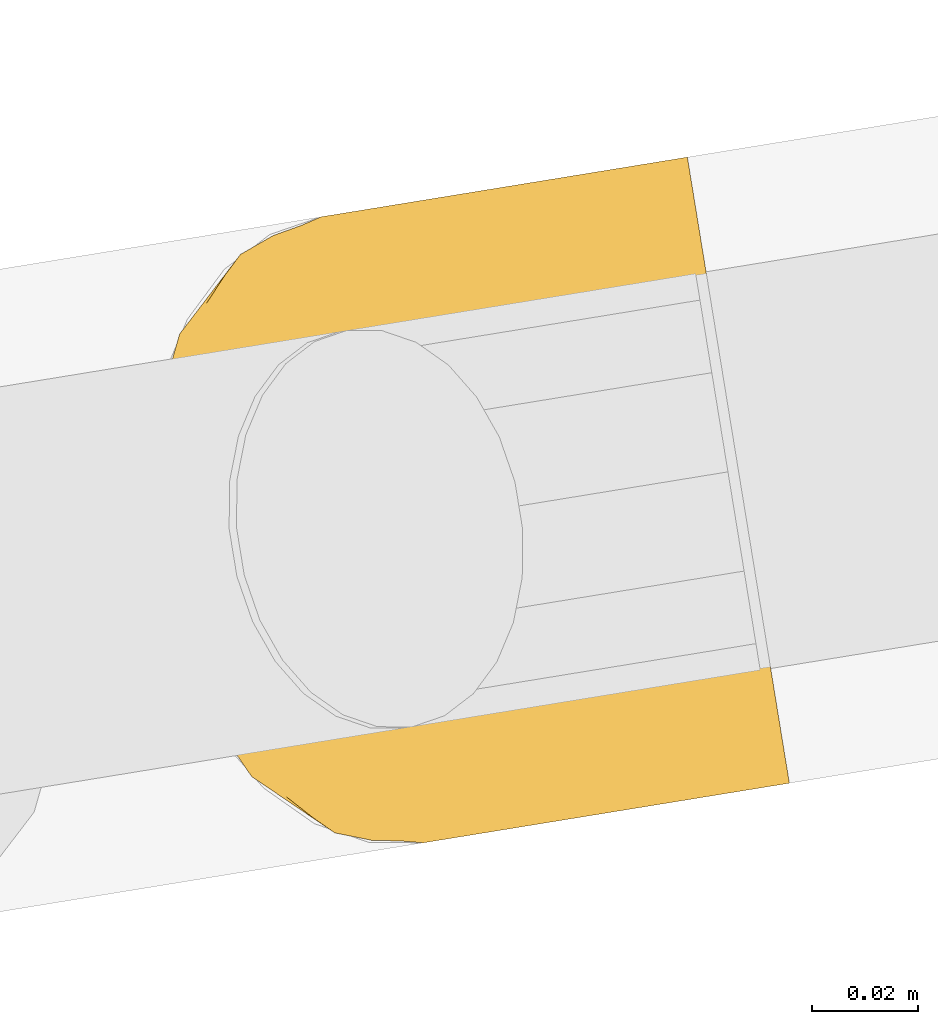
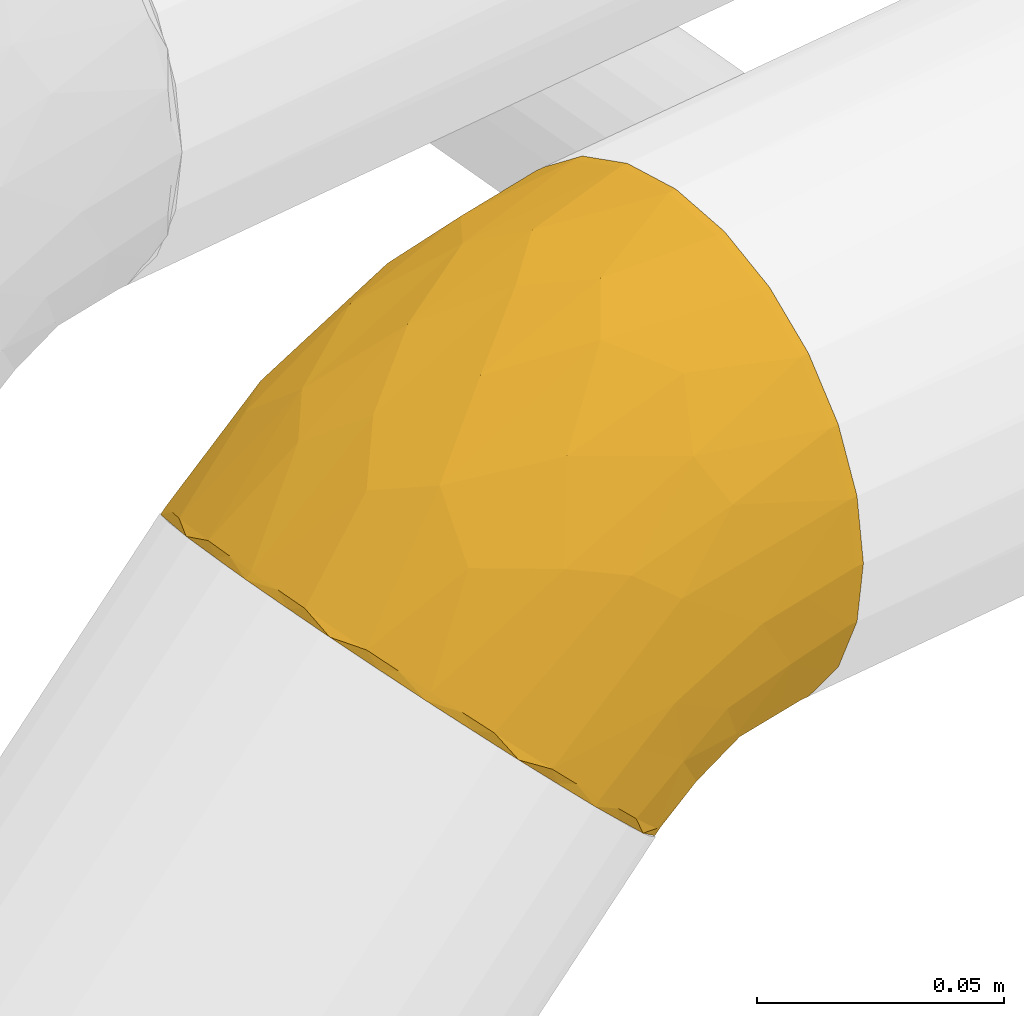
# One storey, part 9 of 56: 1 covering.
"""IFC2X3 building model written with IfcOpenShell, lengths in millimetres."""

from ifc_helpers import new_model, entity, si_unit, converted_unit, derived_unit, direction, frame, origin, origin_with_axes, place, context, subcontext, project, spatial, faceted_brep, material, type_object, element, save


model = new_model("IFC2X3")

# Units and contexts
model_context = context("Model", 3, precision=0.01, world=origin(), true_north=direction((6.12323399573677e-17, 1.0)))
plan_context = context("Plan", 3, precision=1e-05, world=origin_with_axes())
body_context = subcontext(model_context, "Body", "Model", "MODEL_VIEW")
ifc_project = project(units=[converted_unit("PLANEANGLEUNIT", "DEGREE", entity("IfcPositiveLengthMeasure", 0.0174532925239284), si_unit("PLANEANGLEUNIT", "RADIAN"), dimensions=[0, 0, 0, 0, 0, 0, 0]), si_unit("AREAUNIT", "SQUARE_METRE"), si_unit("LENGTHUNIT", "METRE", prefix="MILLI"), si_unit("MASSUNIT", "GRAM", prefix="KILO"), si_unit("POWERUNIT", "WATT"), si_unit("PRESSUREUNIT", "PASCAL", prefix="KILO"), si_unit("FORCEUNIT", "NEWTON", prefix="KILO"), si_unit("ELECTRICVOLTAGEUNIT", "VOLT"), si_unit("ELECTRICCURRENTUNIT", "AMPERE"), si_unit("THERMODYNAMICTEMPERATUREUNIT", "DEGREE_CELSIUS"), si_unit("TIMEUNIT", "SECOND"), si_unit("VOLUMEUNIT", "CUBIC_METRE"), derived_unit("LINEARVELOCITYUNIT", [(si_unit("LENGTHUNIT", "METRE"), 1), (si_unit("TIMEUNIT", "SECOND"), -1)]), derived_unit("VOLUMETRICFLOWRATEUNIT", [(si_unit("VOLUMEUNIT", "CUBIC_METRE"), 1), (si_unit("TIMEUNIT", "SECOND"), -1)]), derived_unit("THERMALTRANSMITTANCEUNIT", [(si_unit("POWERUNIT", "WATT"), 1), (si_unit("THERMODYNAMICTEMPERATUREUNIT", "KELVIN"), -1), (si_unit("AREAUNIT", "SQUARE_METRE"), -1)]), derived_unit("SOUNDPRESSUREUNIT", [(si_unit("PRESSUREUNIT", "PASCAL"), 1)])], contexts=[model_context, plan_context])

# Site, building, storey
site_placement = place(None, frame((-3.09682673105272e-06, 1.93776733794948e-05, 0.0), z_axis=(0.0, 0.0, 1.0), x_axis=(-0.160806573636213, 0.986985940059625, 0.0)))
site = spatial("IfcSite", under=ifc_project, at=site_placement, Name="Default", CompositionType="ELEMENT")
building_placement = place(site_placement, frame((0.0, 0.0, 0.0), z_axis=(0.0, 0.0, 1.0), x_axis=(1.0, -2.77555756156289e-17, 0.0)))
building = spatial("IfcBuilding", under=site, at=building_placement, Name="Bygning (endres i Project Information)", CompositionType="ELEMENT")
storey_placement = place(building_placement, frame((0.0, 0.0, 51360.0000000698), z_axis=(0.0, 0.0, 1.0), x_axis=(1.0, -2.77555756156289e-17, 0.0)))
storey = spatial("IfcBuildingStorey", under=building, at=storey_placement, Name="H01-Nivå D+0,36", CompositionType="ELEMENT", Elevation=51360.0000000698)

# Covering
ifc_material = material(Name="3700.001 Retur")
covering_type = type_object("IfcCoveringType", Name="Pipe Insulation:GLAVA avløpsisol. slange økende 19mm (15,5-25,0)", PredefinedType="INSULATION")
covering_placement = place(storey_placement, frame((1011626.7223707, -394916.95891631, 3661.64600916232), z_axis=(0.0, 0.0, 1.0), x_axis=(1.0, -2.77555756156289e-17, 0.0)))
element("IfcCovering", 1, at=covering_placement, inside=storey, type_object=covering_type, material=ifc_material, Name="Pipe Insulation:GLAVA avløpsisol. slange økende 19mm (15,5-25,0)", ObjectType="Pipe Insulation:GLAVA avløpsisol. slange økende 19mm (15,5-25,0)", PredefinedType="INSULATION", context=body_context, shape_type="Brep", body=[
    faceted_brep([(38.6651321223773, 31.0062513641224, -129.967447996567), (28.9243210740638, 35.6085278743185, -125.365171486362), (19.1835100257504, 40.2108043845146, -120.762894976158), (12.6749081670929, 47.0985979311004, -113.875101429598), (6.16630630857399, 53.986391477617, -106.987307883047), (3.88078927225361, 62.1110979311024, -98.8626014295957), (1.59527223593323, 70.2358043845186, -90.7378949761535), (3.88078927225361, 78.3605108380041, -82.6131885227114), (6.16630630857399, 86.4852172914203, -74.4884820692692), (12.6749081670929, 93.3730108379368, -67.6006885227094), (19.1835100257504, 100.260804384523, -60.7128949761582), (28.9243210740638, 104.863080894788, -56.1106184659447), (38.6651321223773, 109.465357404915, -51.5083419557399), (50.1552021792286, 111.081461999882, -49.8922373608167), (61.6452722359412, 112.697566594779, -48.276132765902), (73.1353422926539, 111.081461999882, -49.8922373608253), (84.6254123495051, 109.465357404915, -51.5083419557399), (94.3662233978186, 104.863080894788, -56.1106184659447), (104.107034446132, 100.260804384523, -60.7128949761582), (110.61563630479, 93.3730108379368, -67.6006885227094), (117.124238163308, 86.4852172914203, -74.4884820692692), (119.409755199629, 78.3605108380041, -82.6131885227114), (121.695272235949, 70.2358043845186, -90.7378949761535), (119.409755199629, 62.1110979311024, -98.8626014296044), (117.124238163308, 53.986391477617, -106.987307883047), (110.61563630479, 47.0985979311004, -113.875101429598), (104.107034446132, 40.2108043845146, -120.762894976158), (94.3662233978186, 35.6085278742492, -125.365171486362), (84.6254123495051, 31.0062513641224, -129.967447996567), (73.1353422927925, 29.3901467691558, -131.58355259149), (61.6452722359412, 27.7740421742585, -133.199657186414), (50.1552021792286, 29.3901467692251, -131.58355259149), (84.4288140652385, 0.0, -6.64093655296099), (77.1873558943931, 0.0, -3.64142636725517), (70.0046048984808, 0.0, -2.6957992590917), (61.6452722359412, 0.0, -1.5952722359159), (53.8742304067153, 0.0, -2.61834930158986), (46.1031885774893, 0.0, -3.64142636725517), (38.861730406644, 0.0, -6.64093655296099), (31.6202722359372, 0.0, -9.64044673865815), (25.4018911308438, 0.0, -14.4119783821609), (19.1835100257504, 0.0, -19.1835100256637), (14.4119783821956, 0.0, -25.4018911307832), (9.64044673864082, 0.0, -31.6202722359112), (6.64093655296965, 0.0, -38.8617304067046), (3.64142636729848, 0.0, -46.1031885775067), (2.69579925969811, 0.0, -53.2859395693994), (1.59527223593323, 0.0, -61.6452722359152), (2.61834930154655, 0.0, -69.4163140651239), (3.64142636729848, 0.0, -77.1873558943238), (6.64093655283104, 0.0, -84.4288140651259), (9.64044673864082, 0.0, -91.6702722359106), (14.4119783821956, 0.0, -97.8886533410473), (19.1835100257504, 0.0, -104.107034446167), (25.4018911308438, 0.0, -108.878566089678), (31.6202722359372, 0.0, -113.650097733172), (38.861730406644, 0.0, -116.649607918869), (46.1031885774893, 0.0, -119.649118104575), (53.2859395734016, 0.0, -120.594745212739), (61.6452722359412, 0.0, -121.695272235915), (69.4163140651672, 0.0, -120.672195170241), (77.1873558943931, 0.0, -119.649118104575), (84.4288140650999, 0.0, -116.649607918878), (91.6702722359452, 0.0, -113.650097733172), (97.8886533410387, 0.0, -108.87856608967), (104.107034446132, 0.0, -104.107034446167), (108.878566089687, 0.0, -97.8886533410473), (113.650097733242, 0.0, -91.6702722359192), (116.649607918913, 0.0, -84.4288140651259), (119.649118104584, 0.0, -77.1873558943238), (120.594745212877, 0.0, -70.0046048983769), (121.695272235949, 0.0, -61.6452722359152), (120.672195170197, 0.0, -53.8742304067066), (119.649118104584, 0.0, -46.1031885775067), (116.649607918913, 0.0, -38.8617304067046), (113.650097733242, 0.0, -31.6202722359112), (108.878566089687, 0.0, -25.4018911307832), (104.107034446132, 0.0, -19.1835100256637), (97.8886533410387, 0.0, -14.4119783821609), (91.6702722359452, 0.0, -9.64044673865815), (46.1031885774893, 2.0, -3.64142636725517), (61.6452722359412, 2.0, -1.5952722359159), (53.2859395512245, 2.0, -2.69579926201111), (31.6202722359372, 2.0, -9.64044673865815), (38.861730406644, 2.0, -6.64093655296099), (25.4018911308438, 2.0, -14.4119783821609), (19.1835100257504, 2.0, -19.1835100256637), (9.64044673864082, 2.0, -31.6202722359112), (14.4119783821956, 2.0, -25.4018911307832), (3.64142636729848, 2.0, -46.1031885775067), (6.64093655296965, 2.0, -38.8617304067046), (2.61834930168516, 2.0, -53.8742304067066), (1.59527223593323, 2.0, -61.6452722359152), (3.64142636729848, 2.0, -77.1873558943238), (2.69579925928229, 2.0, -70.004604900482), (9.64044673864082, 2.0, -91.6702722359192), (6.64093655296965, 2.0, -84.4288140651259), (14.4119783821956, 2.0, -97.8886533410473), (19.1835100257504, 2.0, -104.107034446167), (31.6202722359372, 2.0, -113.650097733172), (25.4018911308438, 2.0, -108.87856608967), (46.1031885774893, 2.0, -119.649118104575), (38.861730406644, 2.0, -116.649607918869), (53.8742304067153, 2.0, -120.672195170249), (61.6452722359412, 2.0, -121.695272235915), (77.1873558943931, 2.0, -119.649118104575), (70.0046048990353, 2.0, -120.594745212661), (91.6702722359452, 2.0, -113.650097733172), (84.4288140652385, 2.0, -116.649607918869), (97.8886533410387, 2.0, -108.878566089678), (104.107034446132, 2.0, -104.107034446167), (113.650097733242, 2.0, -91.6702722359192), (108.878566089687, 2.0, -97.8886533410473), (119.649118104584, 2.0, -77.1873558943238), (116.649607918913, 2.0, -84.4288140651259), (120.672195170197, 2.0, -69.4163140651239), (121.695272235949, 2.0, -61.6452722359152), (119.649118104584, 2.0, -46.1031885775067), (120.594745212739, 2.0, -53.2859395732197), (113.650097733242, 2.0, -31.6202722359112), (116.649607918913, 2.0, -38.8617304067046), (108.878566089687, 2.0, -25.4018911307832), (104.107034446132, 2.0, -19.1835100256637), (91.6702722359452, 2.0, -9.64044673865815), (97.8886533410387, 2.0, -14.4119783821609), (77.1873558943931, 2.0, -3.64142636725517), (84.4288140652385, 2.0, -6.64093655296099), (69.4163140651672, 2.0, -2.61834930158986), (50.664647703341, 28.7452778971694, -4.95512982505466), (39.5950181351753, 37.8330606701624, -10.1225387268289), (61.6452722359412, 42.0004834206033, -6.86143578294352), (25.9108698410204, 27.1682922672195, -15.6210548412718), (26.9386521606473, 56.9168391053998, -23.5642877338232), (25.9108693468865, 83.5689547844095, -38.9829740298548), (31.6202722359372, 105.594555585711, -52.5507166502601), (25.4018911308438, 102.220573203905, -55.9246990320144), (19.1835100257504, 98.8465908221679, -59.2986814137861), (61.6452722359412, 79.2750000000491, -22.3010460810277), (50.6646483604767, 89.9958060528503, -30.3259287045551), (49.9807930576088, 60.7060146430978, -14.4164067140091), (1.59527223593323, 49.2500000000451, -74.3058715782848), (4.46183562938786, 45.1788828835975, -51.9022263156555), (3.64142636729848, 79.8115035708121, -78.3337686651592), (1.59527223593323, 26.4583997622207, -64.8652816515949), (1.59527223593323, 14.8614582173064, -63.3385153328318), (15.0655051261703, 33.4987318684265, -27.5478277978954), (8.00076731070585, 29.0199005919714, -37.7016675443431), (9.04079400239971, 54.6428505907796, -44.4694710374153), (9.64044673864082, 90.0524719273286, -68.09280030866), (6.64093655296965, 84.9319877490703, -73.2132844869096), (46.1031885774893, 109.836503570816, -48.3087686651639), (39.5950159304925, 79.9158587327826, -27.5538042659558), (15.2098345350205, 67.1408169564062, -40.676799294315), (14.4119783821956, 94.4495313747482, -63.695740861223), (61.6452722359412, 111.283353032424, -46.8619192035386), (53.8742304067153, 110.559928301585, -47.5853439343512), (1.59527223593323, 58.5298619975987, -81.4265601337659), (2.61834930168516, 74.316547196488, -83.8287250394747), (1.59527223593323, 68.8215908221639, -89.3236814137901), (1.59527223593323, 37.8541998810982, -69.5855766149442), (38.861730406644, 107.715529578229, -50.4297426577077), (3.54813655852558, 34.0030545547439, -83.5784971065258), (4.16459638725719, 16.8678863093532, -80.4693861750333), (11.7283730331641, 13.4077838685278, -96.1005551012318), (13.156433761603, 34.2988058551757, -106.68011113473), (22.1682347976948, 15.6080161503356, -108.812613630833), (9.27971318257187, 26.9160024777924, -95.9927100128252), (4.16459674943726, 44.9977451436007, -92.121155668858), (35.8329738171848, 17.4147715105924, -118.930716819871), (61.6452722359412, 15.183444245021, -124.317622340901), (22.6361433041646, 27.5353631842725, -114.505458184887), (3.64142636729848, 57.8316780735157, -100.313594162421), (6.64093655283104, 52.711193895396, -105.434078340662), (9.64044673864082, 47.5907097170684, -110.55456251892), (31.6202722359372, 32.0486260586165, -126.09664617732), (48.4139431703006, 18.3851066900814, -124.173520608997), (61.6452722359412, 26.3598286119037, -131.785443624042), (38.861730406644, 29.9276520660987, -128.217620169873), (46.1031885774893, 27.8066780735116, -130.338594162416), (53.8742304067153, 27.0832533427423, -131.062018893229), (19.1835100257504, 38.7965908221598, -119.348681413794), (25.4018911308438, 35.4226084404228, -122.722663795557), (14.4119783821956, 43.1936502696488, -114.951621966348), (2.61834930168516, 63.3266344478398, -94.8186377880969), (100.654400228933, 13.3875603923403, -108.645248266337), (87.4575706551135, 17.4147715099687, -118.930716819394), (101.122308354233, 25.8469172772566, -113.053705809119), (91.6702722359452, 32.0486260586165, -126.09664617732), (97.8886533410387, 35.4226084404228, -122.722663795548), (104.107034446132, 38.7965908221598, -119.348681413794), (74.8766016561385, 13.0214217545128, -121.951809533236), (119.74240796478, 30.682877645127, -82.2032347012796), (121.695272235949, 26.4583997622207, -64.8652816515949), (119.125948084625, 16.8678863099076, -80.469386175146), (110.134108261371, 14.1384379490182, -98.3294184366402), (121.695272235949, 14.8614582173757, -63.3385153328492), (114.01083159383, 26.916004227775, -95.9927101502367), (121.695272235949, 58.5298619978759, -81.4265601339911), (119.649118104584, 57.8316780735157, -100.313594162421), (120.672195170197, 63.3266344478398, -94.8186377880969), (121.695272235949, 68.8215908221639, -89.3236814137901), (111.562170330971, 36.3914993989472, -105.620722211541), (119.125947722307, 44.9977451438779, -92.121155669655), (69.4163140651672, 27.0832533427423, -131.062018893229), (77.1873558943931, 27.8066780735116, -130.338594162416), (113.650097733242, 47.5907097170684, -110.55456251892), (116.649607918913, 52.7111938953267, -105.434078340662), (84.4288140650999, 29.9276520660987, -128.217620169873), (108.878566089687, 43.1936502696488, -114.951621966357), (121.695272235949, 49.2500000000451, -74.3058715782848), (121.695272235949, 37.8541998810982, -69.5855766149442), (118.828708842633, 45.1788828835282, -51.9022263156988), (83.6955263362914, 37.8330606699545, -10.122538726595), (97.3796746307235, 27.168292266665, -15.6210548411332), (96.3518923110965, 56.9168391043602, -23.5642877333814), (83.6955285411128, 79.915858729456, -27.5538042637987), (91.6702722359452, 105.594555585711, -52.5507166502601), (84.4288140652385, 107.715529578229, -50.4297426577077), (77.1873558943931, 109.836503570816, -48.3087686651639), (108.080710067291, 37.5870260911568, -28.4352185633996), (72.6258967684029, 28.745277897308, -4.95512982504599), (73.3097514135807, 60.706014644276, -14.4164067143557), (108.225039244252, 70.6591574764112, -42.9401798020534), (97.3796751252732, 83.5689547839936, -38.9829740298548), (119.649118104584, 79.8115035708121, -78.3337686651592), (120.672195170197, 74.316547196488, -83.8287250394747), (114.249750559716, 43.742599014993, -39.9544392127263), (72.6258961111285, 89.9958060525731, -30.3259287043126), (104.107034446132, 98.8465908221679, -59.2986814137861), (113.650097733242, 90.0524719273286, -68.09280030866), (108.878566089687, 94.4495313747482, -63.695740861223), (97.8886533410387, 102.220573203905, -55.9246990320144), (115.289777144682, 66.6463203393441, -53.2870406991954), (116.649607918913, 84.9319877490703, -73.2132844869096), (69.4163140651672, 110.559928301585, -47.5853439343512)], [[[0, 1, 2, 3, 4, 5, 6, 7, 8, 9, 10, 11, 12, 13, 14, 15, 16, 17, 18, 19, 20, 21, 22, 23, 24, 25, 26, 27, 28, 29, 30, 31]], [[32, 33, 34, 35, 36, 37, 38, 39, 40, 41, 42, 43, 44, 45, 46, 47, 48, 49, 50, 51, 52, 53, 54, 55, 56, 57, 58, 59, 60, 61, 62, 63, 64, 65, 66, 67, 68, 69, 70, 71, 72, 73, 74, 75, 76, 77, 78, 79]], [[80, 37, 36, 35, 81, 82]], [[83, 39, 38, 37, 80, 84]], [[40, 39, 83, 85, 86, 41]], [[87, 43, 42, 41, 86, 88]], [[89, 45, 44, 43, 87, 90]], [[46, 45, 89, 91, 92, 47]], [[93, 49, 48, 47, 92, 94]], [[95, 51, 50, 49, 93, 96]], [[52, 51, 95, 97, 98, 53]], [[99, 55, 54, 53, 98, 100]], [[101, 57, 56, 55, 99, 102]], [[58, 57, 101, 103, 104, 59]], [[105, 61, 60, 59, 104, 106]], [[107, 63, 62, 61, 105, 108]], [[64, 63, 107, 109, 110, 65]], [[111, 67, 66, 65, 110, 112]], [[113, 69, 68, 67, 111, 114]], [[70, 69, 113, 115, 116, 71]], [[117, 73, 72, 71, 116, 118]], [[119, 75, 74, 73, 117, 120]], [[76, 75, 119, 121, 122, 77]], [[123, 79, 78, 77, 122, 124]], [[125, 33, 32, 79, 123, 126]], [[34, 33, 125, 127, 81, 35]], [[80, 128, 129]], [[81, 130, 128]], [[131, 86, 85, 83]], [[129, 132, 131]], [[133, 134, 135, 136]], [[137, 138, 139]], [[139, 130, 137]], [[140, 141, 142]], [[89, 143, 144, 92, 91]], [[143, 89, 141]], [[129, 83, 84, 80]], [[145, 146, 87]], [[145, 87, 88, 86]], [[147, 148, 149, 142]], [[150, 151, 138]], [[132, 129, 151]], [[152, 136, 153, 148]], [[134, 133, 151]], [[151, 129, 139]], [[138, 154, 155, 150]], [[132, 152, 145]], [[151, 133, 132]], [[146, 89, 90, 87]], [[156, 140, 142, 157, 158]], [[141, 140, 159, 143]], [[142, 141, 147]], [[145, 131, 132]], [[129, 131, 83]], [[133, 152, 132]], [[146, 147, 141]], [[152, 133, 136]], [[151, 150, 160, 134]], [[128, 139, 129]], [[145, 86, 131]], [[147, 145, 152]], [[89, 146, 141]], [[145, 147, 146]], [[148, 147, 152]], [[128, 80, 82, 81]], [[139, 128, 130]], [[139, 138, 151]], [[154, 138, 137]], [[143, 161, 162]], [[143, 162, 144]], [[163, 98, 97, 95]], [[144, 162, 93]], [[164, 165, 166]], [[161, 167, 166]], [[165, 99, 100, 98]], [[165, 168, 99]], [[162, 95, 96, 93]], [[169, 104, 103, 101]], [[168, 101, 102, 99]], [[163, 165, 98]], [[161, 143, 159, 140]], [[167, 164, 166]], [[168, 165, 170]], [[167, 171, 172, 173]], [[163, 162, 166]], [[167, 156, 171]], [[164, 167, 173]], [[168, 170, 174]], [[161, 140, 167]], [[169, 175, 176]], [[168, 174, 177, 178]], [[101, 168, 175]], [[178, 175, 168]], [[175, 178, 179, 176]], [[170, 180, 181, 174]], [[164, 170, 165]], [[162, 163, 95]], [[180, 170, 164]], [[165, 163, 166]], [[164, 173, 182, 180]], [[144, 93, 94, 92]], [[156, 167, 140]], [[156, 158, 183, 171]], [[101, 175, 169]], [[162, 161, 166]], [[184, 185, 186]], [[186, 187, 188, 189]], [[105, 190, 185]], [[191, 192, 193]], [[194, 184, 186]], [[184, 110, 109, 107]], [[193, 195, 113]], [[194, 186, 196]], [[193, 113, 114, 111]], [[197, 198, 199, 200]], [[191, 193, 196]], [[201, 202, 196]], [[104, 169, 190]], [[186, 201, 196]], [[169, 176, 203, 204]], [[185, 184, 107]], [[185, 107, 108, 105]], [[202, 205, 206, 198]], [[185, 204, 207, 187]], [[187, 186, 185]], [[184, 194, 110]], [[201, 189, 208, 205]], [[201, 186, 189]], [[191, 202, 209]], [[209, 202, 197]], [[202, 198, 197]], [[209, 210, 192, 191]], [[194, 193, 111]], [[194, 111, 112, 110]], [[204, 185, 190]], [[202, 201, 205]], [[193, 194, 196]], [[195, 193, 192]], [[195, 116, 115, 113]], [[190, 105, 106, 104]], [[204, 190, 169]], [[202, 191, 196]], [[117, 192, 211]], [[212, 213, 214]], [[195, 192, 117, 118, 116]], [[215, 216, 217, 218]], [[219, 213, 122]], [[213, 219, 214]], [[220, 81, 127, 125]], [[212, 215, 221]], [[212, 125, 126, 123]], [[222, 223, 214]], [[213, 123, 124, 122]], [[123, 213, 212]], [[220, 221, 130]], [[219, 122, 121, 119]], [[211, 192, 210, 209]], [[215, 223, 216]], [[224, 209, 197, 200, 225]], [[117, 211, 226]], [[219, 222, 214]], [[215, 227, 221]], [[222, 228, 223]], [[222, 229, 230, 228]], [[212, 220, 125]], [[223, 228, 231, 216]], [[154, 137, 227]], [[218, 227, 215]], [[222, 232, 229]], [[223, 215, 214]], [[221, 137, 130]], [[232, 224, 233, 229]], [[214, 215, 212]], [[224, 211, 209]], [[232, 226, 211]], [[226, 119, 120, 117]], [[226, 222, 219]], [[224, 232, 211]], [[222, 226, 232]], [[119, 226, 219]], [[227, 218, 234, 154]], [[221, 227, 137]], [[221, 220, 212]], [[81, 220, 130]], [[155, 154, 14]], [[157, 142, 7]], [[157, 6, 158]], [[12, 11, 134]], [[12, 134, 160, 150]], [[12, 150, 13]], [[10, 135, 11]], [[14, 13, 155]], [[135, 10, 136]], [[13, 150, 155]], [[6, 157, 7]], [[8, 142, 149, 148]], [[153, 9, 148]], [[153, 10, 9]], [[8, 148, 9]], [[10, 153, 136]], [[135, 134, 11]], [[8, 7, 142]], [[183, 158, 6]], [[179, 178, 31]], [[179, 30, 176]], [[4, 3, 173]], [[4, 173, 172, 171]], [[4, 171, 5]], [[2, 182, 3]], [[6, 5, 183]], [[182, 2, 180]], [[5, 171, 183]], [[30, 179, 31]], [[0, 178, 177, 174]], [[181, 1, 174]], [[181, 2, 1]], [[0, 174, 1]], [[2, 181, 180]], [[182, 173, 3]], [[0, 31, 178]], [[203, 176, 30]], [[199, 198, 23]], [[199, 22, 200]], [[28, 27, 187]], [[28, 187, 207, 204]], [[28, 204, 29]], [[26, 188, 27]], [[30, 29, 203]], [[188, 26, 189]], [[29, 204, 203]], [[22, 199, 23]], [[24, 198, 206, 205]], [[208, 25, 205]], [[208, 26, 25]], [[24, 205, 25]], [[26, 208, 189]], [[188, 187, 27]], [[24, 23, 198]], [[225, 200, 22]], [[234, 218, 15]], [[234, 14, 154]], [[20, 19, 229]], [[20, 229, 233, 224]], [[20, 224, 21]], [[18, 230, 19]], [[22, 21, 225]], [[230, 18, 228]], [[21, 224, 225]], [[14, 234, 15]], [[16, 218, 217, 216]], [[231, 17, 216]], [[231, 18, 17]], [[16, 216, 17]], [[18, 231, 228]], [[230, 229, 19]], [[16, 15, 218]]]),
])

save(model, "model.ifc")
